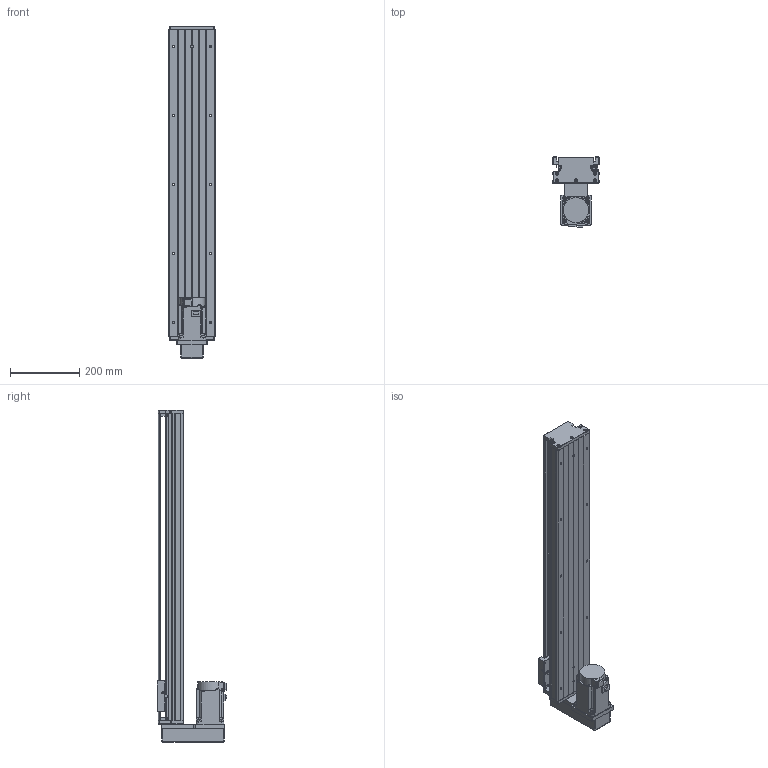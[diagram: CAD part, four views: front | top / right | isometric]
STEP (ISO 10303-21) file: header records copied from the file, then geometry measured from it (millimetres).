
FILE_DESCRIPTION (( 'STEP AP203' ), '1' );
FILE_NAME ('KTH130-750-BM-M75-C4.step', '2023-06-30T04:38:37', ( '微软用户' ), ( '微软中国' ), 'SwSTEP 2.0', 'SolidWorks 2020', '' );
FILE_SCHEMA (( 'CONFIG_CONTROL_DESIGN' ));
Length unit declared in the file: millimetre
Products named in the file (18): GTH14-001_750; CTHA60-017; hg-kn73j_-s100; KTH130-002_KTH130-002; EE_SX911P_R; CTHA86-015-3_CTHA86-015-4; KTH130-004; CTHA60-016; CTHA86-035; KTH130-005; GBT 70.1-M3℅5; KTH130-750-BM-M75-C4; GB1155-6X6; GBT77-2000 M3×3; GBT70.1 M5℅16; す晦芛蹟隊 M3℅5; GBT 70.2-M3¡Á5_M3¡Á6; GBT 70.3-M3℅8
Assembly tree (49 placements, depth 2):
  KTH130-750-BM-M75-C4
    GTH14-001_750
    KTH130-002_KTH130-002
    KTH130-004
    KTH130-005
    GB1155-6X6  x2
    GBT70.1 M5℅16  x10
    GBT 70.2-M3¡Á5_M3¡Á6  x4
    CTHA60-017  x3
    EE_SX911P_R  x3
    CTHA60-016  x2
    GBT 70.1-M3℅5  x6
    GBT77-2000 M3×3  x6
    す晦芛蹟隊 M3℅5  x2
    GBT 70.3-M3℅8  x4
    hg-kn73j_-s100
    CTHA86-015-3_CTHA86-015-4
    CTHA86-035
Bounding box: 135 x 202.8 x 962 mm (x, y, z)
Volume: 6233632.4 mm3; surface area: 895809.5 mm2
Topology: 52 solids, 52 shells, 2192 faces, 5316 edges, 3327 vertices
Faces by surface type: plane 1208, cylinder 630, cone 238, torus 100, sphere 16
Entity records: 39945 total; most frequent: CARTESIAN_POINT 6722, DIRECTION 6577, ORIENTED_EDGE 6136, EDGE_CURVE 3068, AXIS2_PLACEMENT_3D 2300, VECTOR 1977, LINE 1977, VERTEX_POINT 1961
